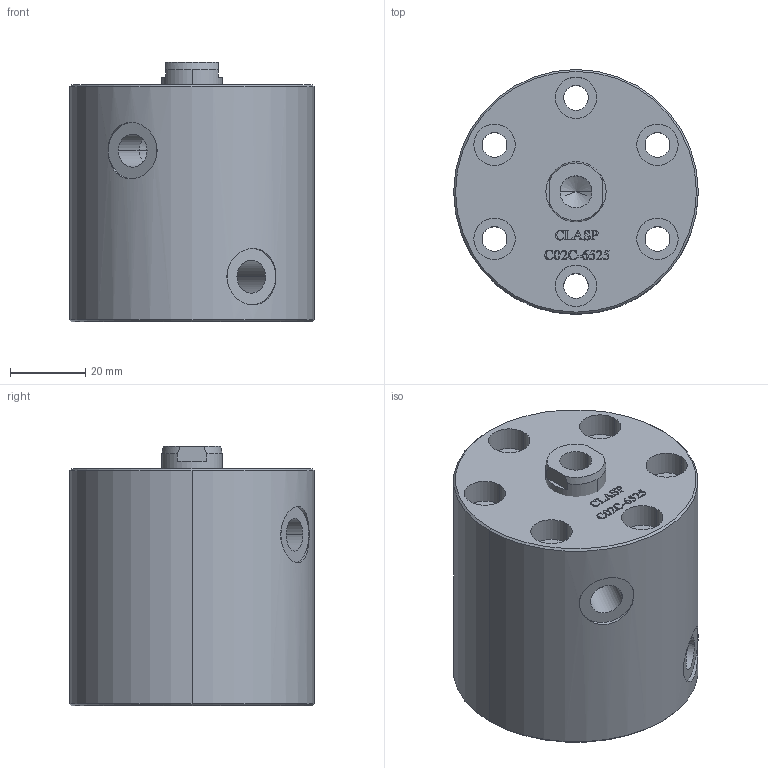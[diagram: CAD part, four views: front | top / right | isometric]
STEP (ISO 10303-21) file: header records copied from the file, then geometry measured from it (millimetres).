
FILE_DESCRIPTION (( 'STEP AP203' ), '1' );
FILE_NAME ('C02C-6525.STEP', '2022-07-09T17:50:35', ( '' ), ( '' ), 'SwSTEP 2.0', 'SolidWorks 2017', '' );
FILE_SCHEMA (( 'CONFIG_CONTROL_DESIGN' ));
Length unit declared in the file: millimetre
Products named in the file (3): C02C-6525-housing-2; C02C-6525-piston-2; C02C-6525
Assembly tree (2 placements, depth 2):
  C02C-6525
    C02C-6525-housing-2
    C02C-6525-piston-2
Bounding box: 65 x 65 x 69 mm (x, y, z)
Volume: 196914.1 mm3; surface area: 32916.9 mm2
Topology: 2 solids, 2 shells, 322 faces, 861 edges, 569 vertices
Faces by surface type: bspline 151, plane 120, cylinder 40, cone 11
Entity records: 17117 total; most frequent: CARTESIAN_POINT 9742, ORIENTED_EDGE 1714, DIRECTION 986, EDGE_CURVE 857, VERTEX_POINT 569, LINE 460, VECTOR 460, EDGE_LOOP 364
